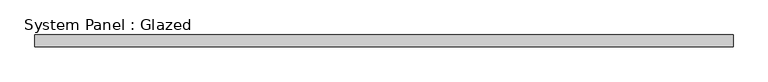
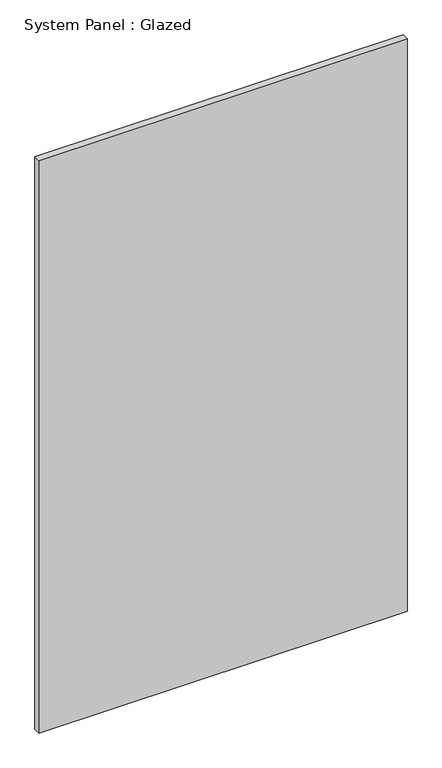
"""IFC4 building model written with IfcOpenShell, lengths in millimetres: plate geometry, System Panel : Glazed."""

from ifc_helpers import new_model, si_unit, origin, origin_with_axes, place, context, project, spatial, polyline, outline, extrude, source, transform, mapped, element, save


def system_panel_glazed_5b1beea7(model_context):
    return source(origin(), model_context, "Body", "SweptSolid", [
        extrude(outline(polyline([(730.5833335, 24.5), (-730.5833335, 24.5), (-730.5833335, 49.5), (730.5833335, 49.5), (730.5833335, 24.5)])), origin_with_axes(), (0.0, 0.0, 1.0), 2400.0),
    ])


if __name__ == "__main__":
    model = new_model("IFC4")
    model_context = context("Model", 3, world=origin())
    ifc_project = project(units=[si_unit("LENGTHUNIT", "METRE", prefix="MILLI")], contexts=[model_context])
    site = spatial("IfcSite", under=ifc_project)
    building = spatial("IfcBuilding", under=site)
    placement = place(None, origin())
    system_panel_glazed_shape = system_panel_glazed_5b1beea7(model_context)
    element("IfcPlate", 1, ObjectType="System Panel : Glazed", at=placement, inside=building, context=model_context, shape_type="MappedRepresentation", body=[
        mapped(system_panel_glazed_shape, transform((0.0, 0.0, 0.0), x_axis=(1.0, 0.0, 0.0), y_axis=(0.0, 1.0, 0.0), z_axis=(0.0, 0.0, 1.0))),
    ])
    save(model, "model.ifc")
